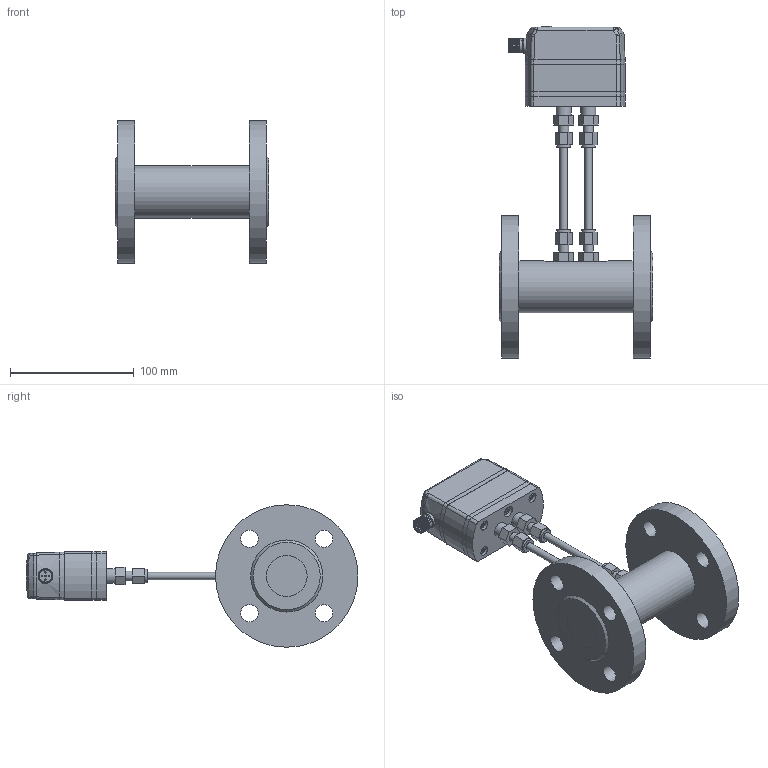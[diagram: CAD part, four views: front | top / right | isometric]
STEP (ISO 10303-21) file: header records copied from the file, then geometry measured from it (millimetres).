
FILE_DESCRIPTION( (''), '2;1');
FILE_NAME( 'QEKH_DN25_flange_capillary.step', '2025-04-29T16:06:09+08:00', (''), (''), '', '', '');
FILE_SCHEMA (('AUTOMOTIVE_DESIGN { 1 0 10303 214 3 1 1 1 }'));
Length unit declared in the file: millimetre
Products named in the file (1): QEKH DN25_flange_capillary
Bounding box: 124 x 267.9 x 115 mm (x, y, z)
Volume: 624641.2 mm3; surface area: 155592 mm2
Topology: 32 solids, 35 shells, 1602 faces, 3940 edges, 2529 vertices
Faces by surface type: plane 808, cylinder 302, extrusion 239, cone 144, torus 52, bspline 48, sphere 9
Full cylindrical faces by diameter (mm): 1 x10, 2.05 x4, 2.6 x4, 2.7 x5, 2.874 x4, 3 x4, 3.1 x1, 3.3 x8, 3.5 x7, 3.838 x6, 4.2 x2, 4.5 x12, 5 x2, 5.5 x10, 6 x6, 7 x6, 8 x8, 9 x2, 9.8 x2, 10.8 x1, 11 x4, 11.5 x2, 11.992 x2, 12 x12, 14 x10, 14.5 x2, 17 x2, 19.1 x6, 33 x4, 42 x1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
Entity records: 52639 total; most frequent: CARTESIAN_POINT 16637, ORIENTED_EDGE 7196, DIRECTION 6609, EDGE_CURVE 3598, VERTEX_POINT 2442, VECTOR 2219, AXIS2_PLACEMENT_3D 2195, EDGE_LOOP 2044
